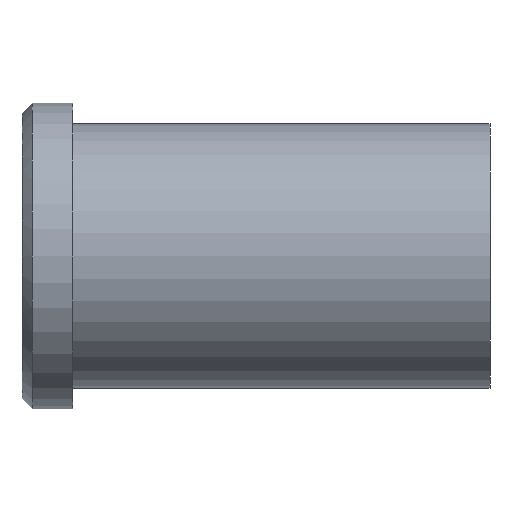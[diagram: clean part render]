
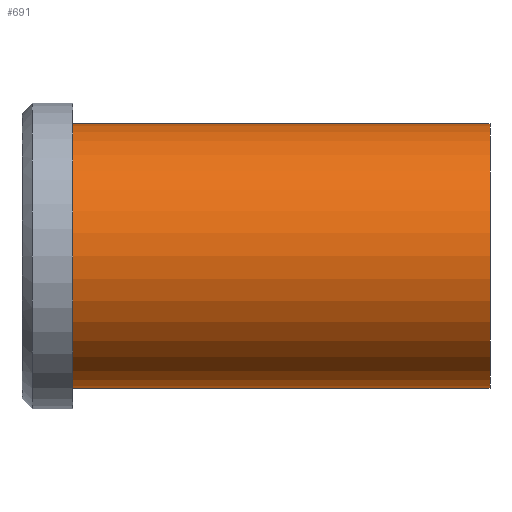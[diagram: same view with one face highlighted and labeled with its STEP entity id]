
A CAD part, front view. The second image highlights one B-rep face of the part: STEP entity #691.
In plain terms, the highlighted cylindrical face has radius 13 mm (diameter 26 mm), a partial arc.
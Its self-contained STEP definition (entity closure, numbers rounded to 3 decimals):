
#501=CARTESIAN_POINT('Vertex',(0.,0.,-13.)) ;
#506=CARTESIAN_POINT('Axis2P3D Location',(0.,0.,0.)) ;
#510=CARTESIAN_POINT('Vertex',(0.,-13.,0.)) ;
#513=CARTESIAN_POINT('Axis2P3D Location',(0.,0.,0.)) ;
#517=CARTESIAN_POINT('Vertex',(0.,0.,13.)) ;
#631=CARTESIAN_POINT('Line Origine',(41.,0.,13.)) ;
#635=CARTESIAN_POINT('Vertex',(41.,0.,13.)) ;
#649=CARTESIAN_POINT('Vertex',(41.,0.,-13.)) ;
#652=CARTESIAN_POINT('Line Origine',(41.,0.,-13.)) ;
#666=CARTESIAN_POINT('Axis2P3D Location',(41.,0.,0.)) ;
#671=CARTESIAN_POINT('Axis2P3D Location',(41.,0.,0.)) ;
#675=CARTESIAN_POINT('Vertex',(41.,-13.,0.)) ;
#678=CARTESIAN_POINT('Axis2P3D Location',(41.,0.,0.)) ;
#507=DIRECTION('Axis2P3D Direction',(1.,0.,-0.)) ;
#514=DIRECTION('Axis2P3D Direction',(1.,0.,-0.)) ;
#632=DIRECTION('Vector Direction',(-1.,0.,0.)) ;
#653=DIRECTION('Vector Direction',(-1.,0.,0.)) ;
#667=DIRECTION('Axis2P3D Direction',(-1.,-0.,-0.)) ;
#668=DIRECTION('Axis2P3D XDirection',(0.,0.,-1.)) ;
#672=DIRECTION('Axis2P3D Direction',(-1.,-0.,-0.)) ;
#679=DIRECTION('Axis2P3D Direction',(-1.,-0.,-0.)) ;
#508=AXIS2_PLACEMENT_3D('Circle Axis2P3D',#506,#507,$) ;
#515=AXIS2_PLACEMENT_3D('Circle Axis2P3D',#513,#514,$) ;
#669=AXIS2_PLACEMENT_3D('Cylinder Axis2P3D',#666,#667,#668) ;
#673=AXIS2_PLACEMENT_3D('Circle Axis2P3D',#671,#672,$) ;
#680=AXIS2_PLACEMENT_3D('Circle Axis2P3D',#678,#679,$) ;
#684=ORIENTED_EDGE('',*,*,#656,.T.) ;
#685=ORIENTED_EDGE('',*,*,#677,.F.) ;
#686=ORIENTED_EDGE('',*,*,#682,.F.) ;
#687=ORIENTED_EDGE('',*,*,#637,.T.) ;
#688=ORIENTED_EDGE('',*,*,#519,.T.) ;
#689=ORIENTED_EDGE('',*,*,#512,.T.) ;
#633=VECTOR('Line Direction',#632,1.) ;
#654=VECTOR('Line Direction',#653,1.) ;
#691=ADVANCED_FACE('353-18X46',(#690),#670,.T.) ;
#509=CIRCLE('generated circle',#508,13.) ;
#516=CIRCLE('generated circle',#515,13.) ;
#674=CIRCLE('generated circle',#673,13.) ;
#681=CIRCLE('generated circle',#680,13.) ;
#670=CYLINDRICAL_SURFACE('generated cylinder',#669,13.) ;
#512=EDGE_CURVE('',#511,#502,#509,.T.) ;
#519=EDGE_CURVE('',#518,#511,#516,.T.) ;
#637=EDGE_CURVE('',#636,#518,#634,.T.) ;
#656=EDGE_CURVE('',#502,#650,#655,.F.) ;
#677=EDGE_CURVE('',#676,#650,#674,.F.) ;
#682=EDGE_CURVE('',#636,#676,#681,.F.) ;
#683=EDGE_LOOP('',(#684,#685,#686,#687,#688,#689)) ;
#690=FACE_OUTER_BOUND('',#683,.T.) ;
#634=LINE('Line',#631,#633) ;
#655=LINE('Line',#652,#654) ;
#502=VERTEX_POINT('',#501) ;
#511=VERTEX_POINT('',#510) ;
#518=VERTEX_POINT('',#517) ;
#636=VERTEX_POINT('',#635) ;
#650=VERTEX_POINT('',#649) ;
#676=VERTEX_POINT('',#675) ;
